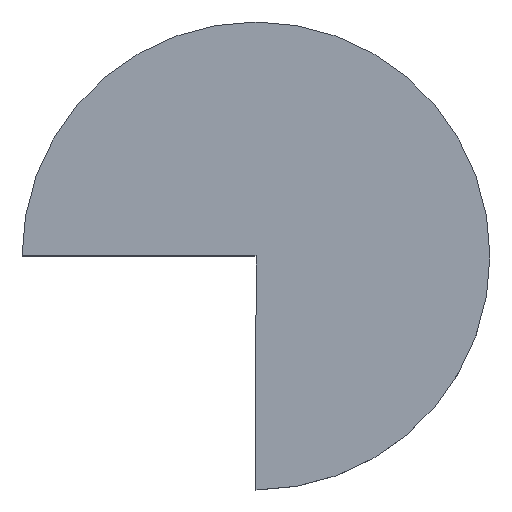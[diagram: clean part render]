
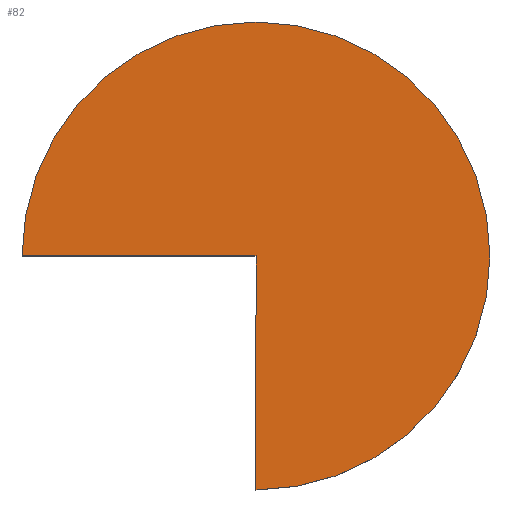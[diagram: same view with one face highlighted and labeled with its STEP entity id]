
A CAD part, top view. The second image highlights one B-rep face of the part: STEP entity #82.
In plain terms, the highlighted planar face has unit normal (0, 0, 1).
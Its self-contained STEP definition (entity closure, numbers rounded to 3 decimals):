
#51=CARTESIAN_POINT('Axis2P3D Location',(0.,0.,50.)) ;
#56=CARTESIAN_POINT('Axis2P3D Location',(0.,0.,50.)) ;
#60=CARTESIAN_POINT('Vertex',(0.,-278.,50.)) ;
#62=CARTESIAN_POINT('Vertex',(-278.,0.,50.)) ;
#65=CARTESIAN_POINT('Line Origine',(-139.,0.,50.)) ;
#69=CARTESIAN_POINT('Vertex',(0.,0.,50.)) ;
#72=CARTESIAN_POINT('Line Origine',(0.,-139.,50.)) ;
#52=DIRECTION('Axis2P3D Direction',(0.,0.,1.)) ;
#53=DIRECTION('Axis2P3D XDirection',(1.,0.,0.)) ;
#57=DIRECTION('Axis2P3D Direction',(0.,0.,1.)) ;
#66=DIRECTION('Vector Direction',(1.,0.,0.)) ;
#73=DIRECTION('Vector Direction',(0.,1.,0.)) ;
#54=AXIS2_PLACEMENT_3D('Plane Axis2P3D',#51,#52,#53) ;
#58=AXIS2_PLACEMENT_3D('Circle Axis2P3D',#56,#57,$) ;
#78=ORIENTED_EDGE('',*,*,#64,.T.) ;
#79=ORIENTED_EDGE('',*,*,#71,.T.) ;
#80=ORIENTED_EDGE('',*,*,#76,.T.) ;
#67=VECTOR('Line Direction',#66,1.) ;
#74=VECTOR('Line Direction',#73,1.) ;
#82=ADVANCED_FACE('PartBody',(#81),#55,.T.) ;
#59=CIRCLE('generated circle',#58,278.) ;
#64=EDGE_CURVE('',#61,#63,#59,.T.) ;
#71=EDGE_CURVE('',#63,#70,#68,.T.) ;
#76=EDGE_CURVE('',#70,#61,#75,.F.) ;
#77=EDGE_LOOP('',(#78,#79,#80)) ;
#81=FACE_OUTER_BOUND('',#77,.T.) ;
#68=LINE('Line',#65,#67) ;
#75=LINE('Line',#72,#74) ;
#55=PLANE('',#54) ;
#61=VERTEX_POINT('',#60) ;
#63=VERTEX_POINT('',#62) ;
#70=VERTEX_POINT('',#69) ;
